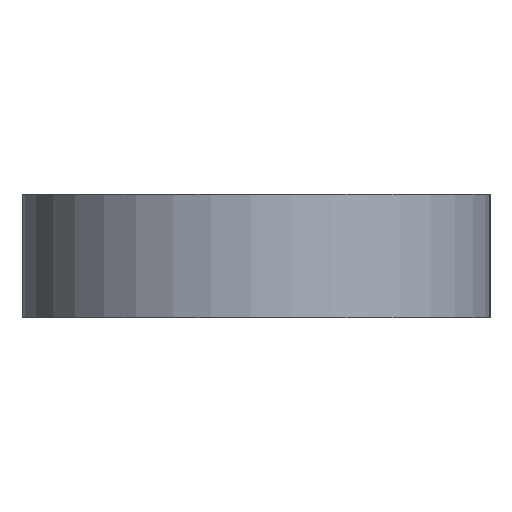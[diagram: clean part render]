
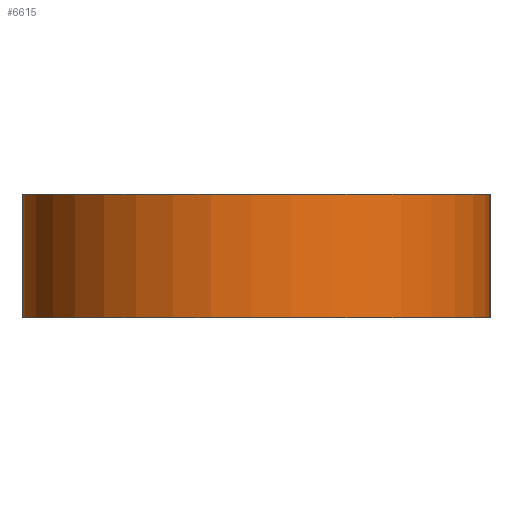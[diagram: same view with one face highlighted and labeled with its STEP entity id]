
A CAD part, front view. The second image highlights one B-rep face of the part: STEP entity #6615.
In plain terms, the highlighted cylindrical face has radius 30.265 mm (diameter 60.53 mm), a partial arc.
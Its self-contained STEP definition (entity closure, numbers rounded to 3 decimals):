
#58 = FACE_OUTER_BOUND ( 'NONE', #331, .T. ) ;
#121 = CARTESIAN_POINT ( 'NONE',  ( 30.006, 3.953, 16. ) ) ;
#331 = EDGE_LOOP ( 'NONE', ( #3659, #4361, #1907, #5170 ) ) ;
#369 = CARTESIAN_POINT ( 'NONE',  ( -30.265, 0., 16. ) ) ;
#718 = DIRECTION ( 'NONE',  ( 0., 0., 1. ) ) ;
#839 = AXIS2_PLACEMENT_3D ( 'NONE', #1808, #3577, #1880 ) ;
#1015 = AXIS2_PLACEMENT_3D ( 'NONE', #1308, #718, #4195 ) ;
#1231 = EDGE_CURVE ( 'NONE', #3264, #2136, #4309, .T. ) ;
#1308 = CARTESIAN_POINT ( 'NONE',  ( 0., 0., 0. ) ) ;
#1592 = CARTESIAN_POINT ( 'NONE',  ( -30.265, 0., 16. ) ) ;
#1749 = EDGE_CURVE ( 'NONE', #6371, #2136, #6536, .T. ) ;
#1808 = CARTESIAN_POINT ( 'NONE',  ( 0., 0., 16. ) ) ;
#1880 = DIRECTION ( 'NONE',  ( -1., 0., 0. ) ) ;
#1907 = ORIENTED_EDGE ( 'NONE', *, *, #5089, .F. ) ;
#2136 = VERTEX_POINT ( 'NONE', #4540 ) ;
#2248 = VECTOR ( 'NONE', #6839, 1000. ) ;
#2552 = DIRECTION ( 'NONE',  ( 0., 0., -1. ) ) ;
#3264 = VERTEX_POINT ( 'NONE', #7282 ) ;
#3325 = DIRECTION ( 'NONE',  ( 0., 0., 1. ) ) ;
#3577 = DIRECTION ( 'NONE',  ( 0., 0., -1. ) ) ;
#3650 = VECTOR ( 'NONE', #2552, 1000. ) ;
#3659 = ORIENTED_EDGE ( 'NONE', *, *, #1231, .T. ) ;
#3725 = DIRECTION ( 'NONE',  ( 1., 0., 0. ) ) ;
#4163 = LINE ( 'NONE', #1592, #2248 ) ;
#4195 = DIRECTION ( 'NONE',  ( 1., 0., 0. ) ) ;
#4231 = CARTESIAN_POINT ( 'NONE',  ( 0., 0., 16. ) ) ;
#4309 = CIRCLE ( 'NONE', #1015, 30.265 ) ;
#4361 = ORIENTED_EDGE ( 'NONE', *, *, #1749, .F. ) ;
#4540 = CARTESIAN_POINT ( 'NONE',  ( 30.006, 3.953, 0. ) ) ;
#4850 = VERTEX_POINT ( 'NONE', #369 ) ;
#5089 = EDGE_CURVE ( 'NONE', #4850, #6371, #7236, .T. ) ;
#5170 = ORIENTED_EDGE ( 'NONE', *, *, #5644, .T. ) ;
#5644 = EDGE_CURVE ( 'NONE', #4850, #3264, #4163, .T. ) ;
#6371 = VERTEX_POINT ( 'NONE', #6806 ) ;
#6378 = AXIS2_PLACEMENT_3D ( 'NONE', #4231, #3325, #3725 ) ;
#6536 = LINE ( 'NONE', #121, #3650 ) ;
#6615 = ADVANCED_FACE ( 'NONE', ( #58 ), #7235, .T. ) ;
#6806 = CARTESIAN_POINT ( 'NONE',  ( 30.006, 3.953, 16. ) ) ;
#6839 = DIRECTION ( 'NONE',  ( 0., 0., -1. ) ) ;
#7235 = CYLINDRICAL_SURFACE ( 'NONE', #839, 30.265 ) ;
#7236 = CIRCLE ( 'NONE', #6378, 30.265 ) ;
#7282 = CARTESIAN_POINT ( 'NONE',  ( -30.265, 0., 0. ) ) ;
